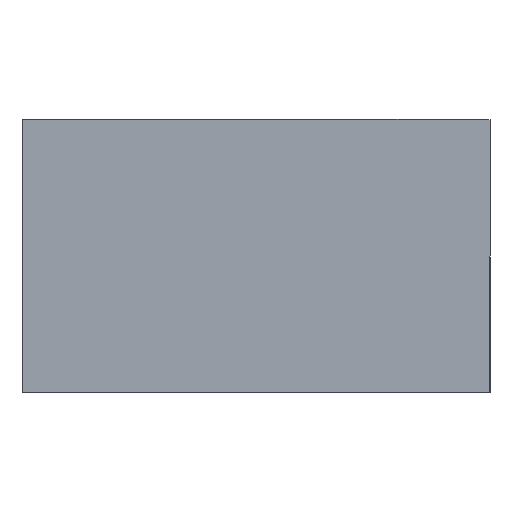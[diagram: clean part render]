
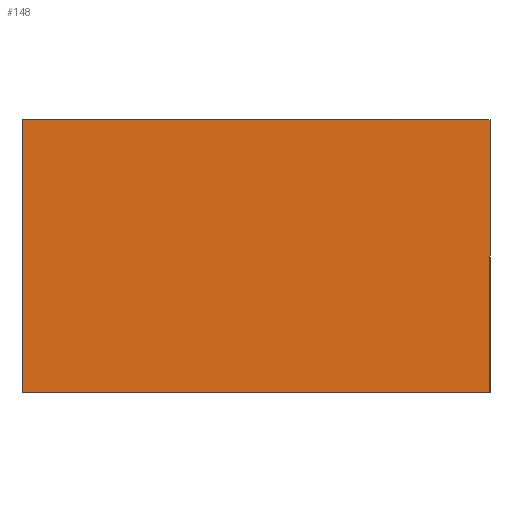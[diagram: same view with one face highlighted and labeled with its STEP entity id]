
A CAD part, front view. The second image highlights one B-rep face of the part: STEP entity #148.
In plain terms, the highlighted planar face has unit normal (0, -1, 0).
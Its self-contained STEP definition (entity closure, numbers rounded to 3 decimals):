
#74 = CARTESIAN_POINT ( 'NONE',  ( -30., 0., -17.5 ) ) ;
#76 = DIRECTION ( 'NONE',  ( 0., 0., 1. ) ) ;
#96 = VERTEX_POINT ( 'NONE', #1867 ) ;
#148 = ADVANCED_FACE ( 'NONE', ( #541 ), #255, .F. ) ;
#190 = VERTEX_POINT ( 'NONE', #1836 ) ;
#246 = EDGE_CURVE ( 'NONE', #96, #190, #1901, .T. ) ;
#255 = PLANE ( 'NONE',  #2261 ) ;
#271 = VECTOR ( 'NONE', #2139, 1000. ) ;
#355 = EDGE_CURVE ( 'NONE', #444, #1832, #1972, .T. ) ;
#426 = DIRECTION ( 'NONE',  ( -1., 0., 0. ) ) ;
#444 = VERTEX_POINT ( 'NONE', #740 ) ;
#541 = FACE_OUTER_BOUND ( 'NONE', #1337, .T. ) ;
#610 = CARTESIAN_POINT ( 'NONE',  ( 0., 0., 0. ) ) ;
#726 = LINE ( 'NONE', #74, #1144 ) ;
#740 = CARTESIAN_POINT ( 'NONE',  ( -30., 0., 17.5 ) ) ;
#819 = EDGE_CURVE ( 'NONE', #1832, #96, #2146, .T. ) ;
#893 = CARTESIAN_POINT ( 'NONE',  ( 30., 0., -17.5 ) ) ;
#904 = DIRECTION ( 'NONE',  ( 1., 0., 0. ) ) ;
#1027 = VECTOR ( 'NONE', #904, 1000. ) ;
#1144 = VECTOR ( 'NONE', #1148, 1000. ) ;
#1148 = DIRECTION ( 'NONE',  ( 0., 0., 1. ) ) ;
#1306 = DIRECTION ( 'NONE',  ( 0., 1., 0. ) ) ;
#1337 = EDGE_LOOP ( 'NONE', ( #1383, #1992, #1361, #1876 ) ) ;
#1361 = ORIENTED_EDGE ( 'NONE', *, *, #1407, .F. ) ;
#1383 = ORIENTED_EDGE ( 'NONE', *, *, #819, .F. ) ;
#1407 = EDGE_CURVE ( 'NONE', #190, #444, #726, .T. ) ;
#1444 = CARTESIAN_POINT ( 'NONE',  ( -30., 0., 17.5 ) ) ;
#1446 = CARTESIAN_POINT ( 'NONE',  ( 30., 0., 17.5 ) ) ;
#1832 = VERTEX_POINT ( 'NONE', #1446 ) ;
#1836 = CARTESIAN_POINT ( 'NONE',  ( -30., 0., -17.5 ) ) ;
#1867 = CARTESIAN_POINT ( 'NONE',  ( 30., 0., -17.5 ) ) ;
#1876 = ORIENTED_EDGE ( 'NONE', *, *, #246, .F. ) ;
#1901 = LINE ( 'NONE', #1989, #2254 ) ;
#1972 = LINE ( 'NONE', #1444, #1027 ) ;
#1989 = CARTESIAN_POINT ( 'NONE',  ( -30., 0., -17.5 ) ) ;
#1992 = ORIENTED_EDGE ( 'NONE', *, *, #355, .F. ) ;
#2139 = DIRECTION ( 'NONE',  ( 0., 0., -1. ) ) ;
#2146 = LINE ( 'NONE', #893, #271 ) ;
#2254 = VECTOR ( 'NONE', #426, 1000. ) ;
#2261 = AXIS2_PLACEMENT_3D ( 'NONE', #610, #1306, #76 ) ;
